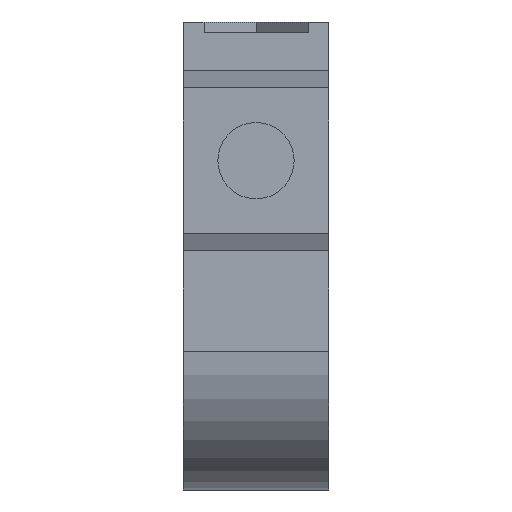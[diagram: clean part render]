
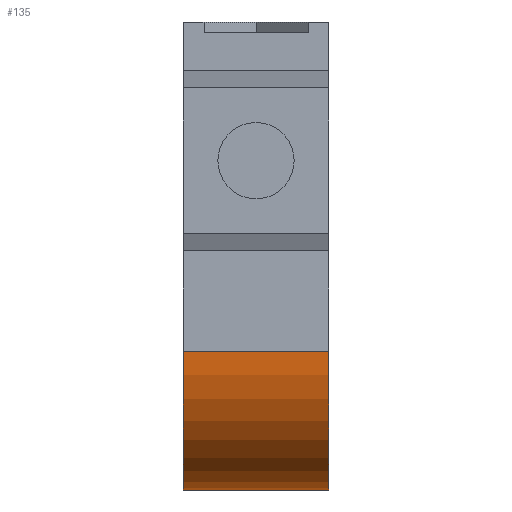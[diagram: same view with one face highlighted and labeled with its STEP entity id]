
A CAD part, front view. The second image highlights one B-rep face of the part: STEP entity #135.
In plain terms, the highlighted cylindrical face has radius 4 mm (diameter 8 mm), a partial arc.
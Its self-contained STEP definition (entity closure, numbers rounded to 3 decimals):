
#131 = EDGE_CURVE ( 'NONE', #154, #160, #830, .T. ) ;
#135 = ADVANCED_FACE ( 'NONE', ( #825 ), #787, .T. ) ;
#136 = EDGE_LOOP ( 'NONE', ( #137, #155, #158, #161 ) ) ;
#137 = ORIENTED_EDGE ( 'NONE', *, *, #152, .F. ) ;
#152 = EDGE_CURVE ( 'NONE', #153, #154, #820, .T. ) ;
#153 = VERTEX_POINT ( 'NONE', #816 ) ;
#154 = VERTEX_POINT ( 'NONE', #815 ) ;
#155 = ORIENTED_EDGE ( 'NONE', *, *, #156, .T. ) ;
#156 = EDGE_CURVE ( 'NONE', #153, #157, #814, .T. ) ;
#157 = VERTEX_POINT ( 'NONE', #810 ) ;
#158 = ORIENTED_EDGE ( 'NONE', *, *, #159, .T. ) ;
#159 = EDGE_CURVE ( 'NONE', #157, #160, #809, .T. ) ;
#160 = VERTEX_POINT ( 'NONE', #804 ) ;
#161 = ORIENTED_EDGE ( 'NONE', *, *, #131, .F. ) ;
#763 = CARTESIAN_POINT ( 'NONE',  ( -14.5, 9., 4.2 ) ) ;
#783 = DIRECTION ( 'NONE',  ( -1., 0., 0. ) ) ;
#784 = DIRECTION ( 'NONE',  ( 0., 0., -1. ) ) ;
#785 = CARTESIAN_POINT ( 'NONE',  ( -14.5, 9., 4.2 ) ) ;
#786 = AXIS2_PLACEMENT_3D ( 'NONE', #785, #784, #783 ) ;
#787 = CYLINDRICAL_SURFACE ( 'NONE', #786, 4. ) ;
#804 = CARTESIAN_POINT ( 'NONE',  ( -14.5, 5., 0. ) ) ;
#805 = DIRECTION ( 'NONE',  ( 1., 0., 0. ) ) ;
#806 = DIRECTION ( 'NONE',  ( 0., 0., 1. ) ) ;
#807 = CARTESIAN_POINT ( 'NONE',  ( -14.5, 9., 0. ) ) ;
#808 = AXIS2_PLACEMENT_3D ( 'NONE', #807, #806, #805 ) ;
#809 = CIRCLE ( 'NONE', #808, 4. ) ;
#810 = CARTESIAN_POINT ( 'NONE',  ( -18.5, 9., 0. ) ) ;
#811 = DIRECTION ( 'NONE',  ( 0., 0., -1. ) ) ;
#812 = VECTOR ( 'NONE', #811, 1000. ) ;
#813 = CARTESIAN_POINT ( 'NONE',  ( -18.5, 9., 4.2 ) ) ;
#814 = LINE ( 'NONE', #813, #812 ) ;
#815 = CARTESIAN_POINT ( 'NONE',  ( -14.5, 5., 4.2 ) ) ;
#816 = CARTESIAN_POINT ( 'NONE',  ( -18.5, 9., 4.2 ) ) ;
#817 = DIRECTION ( 'NONE',  ( 1., 0., 0. ) ) ;
#818 = DIRECTION ( 'NONE',  ( 0., 0., 1. ) ) ;
#819 = AXIS2_PLACEMENT_3D ( 'NONE', #763, #818, #817 ) ;
#820 = CIRCLE ( 'NONE', #819, 4. ) ;
#825 = FACE_OUTER_BOUND ( 'NONE', #136, .T. ) ;
#827 = DIRECTION ( 'NONE',  ( 0., 0., -1. ) ) ;
#828 = VECTOR ( 'NONE', #827, 1000. ) ;
#829 = CARTESIAN_POINT ( 'NONE',  ( -14.5, 5., 4.2 ) ) ;
#830 = LINE ( 'NONE', #829, #828 ) ;
